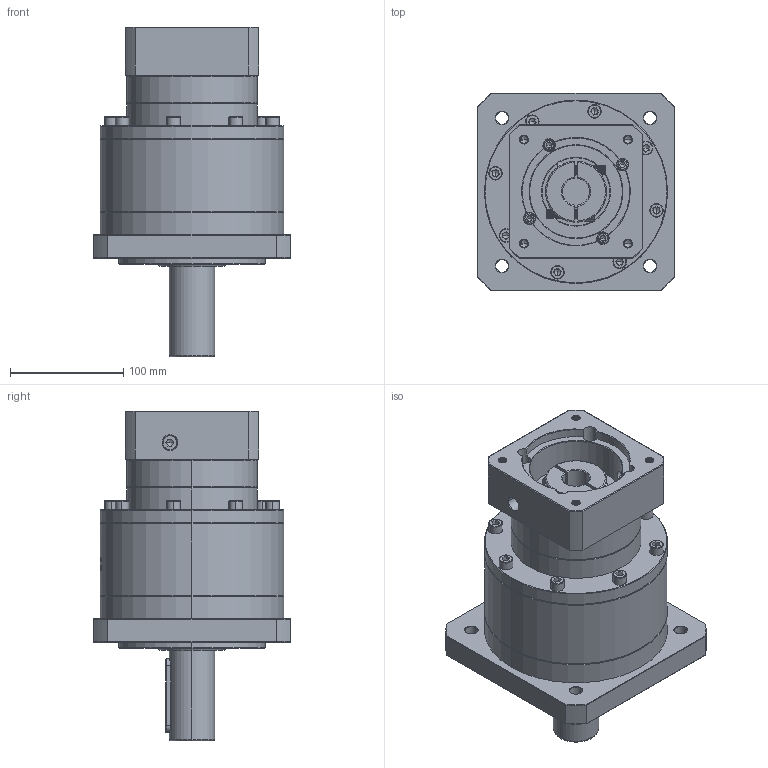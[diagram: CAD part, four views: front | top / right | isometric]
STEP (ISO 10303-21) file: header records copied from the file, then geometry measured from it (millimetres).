
FILE_DESCRIPTION (( 'STEP AP214' ), '1' );
FILE_NAME ('ZF160-D40-L2-24-95-130-M8.step', '2023-03-22T03:56:51', ( '' ), ( '' ), 'SwSTEP 2.0', 'SolidWorks 2016', '' );
FILE_SCHEMA (( 'AUTOMOTIVE_DESIGN' ));
Length unit declared in the file: millimetre
Products named in the file (1): ZF160-D40-L2-24-95-130-M8
Bounding box: 175 x 175 x 291.7 mm (x, y, z)
Volume: 3590050.9 mm3; surface area: 265674.9 mm2
Topology: 6 solids, 6 shells, 1863 faces, 4718 edges, 2977 vertices
Faces by surface type: plane 746, cylinder 487, cone 360, bspline 212, torus 58
Entity records: 99592 total; most frequent: CARTESIAN_POINT 36542, ORIENTED_EDGE 9328, DIRECTION 8192, EDGE_CURVE 4664, VERTEX_POINT 2977, AXIS2_PLACEMENT_3D 2845, LINE 2502, VECTOR 2502
